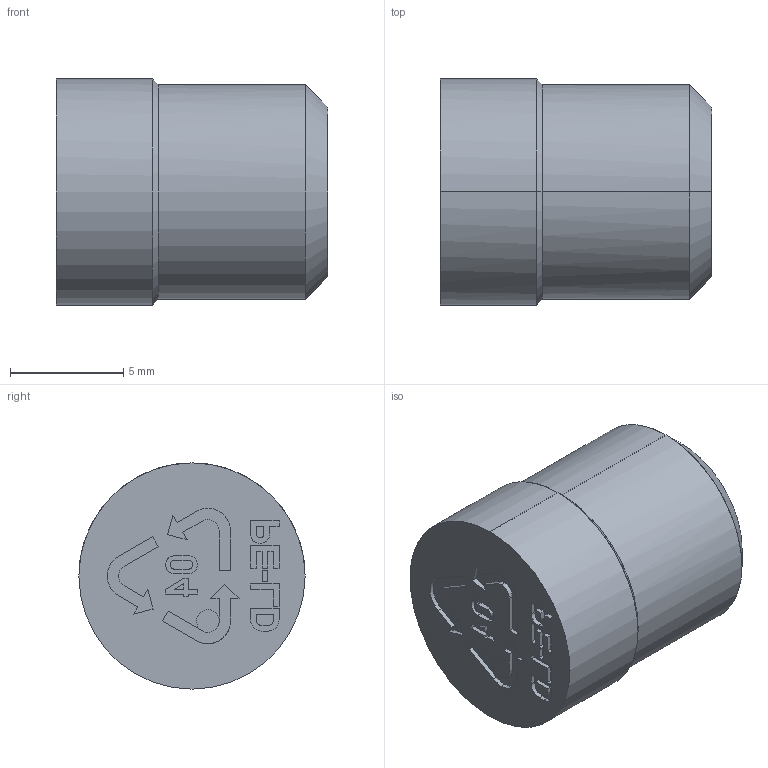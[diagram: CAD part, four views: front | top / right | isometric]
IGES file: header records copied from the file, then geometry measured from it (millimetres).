
Start section: START RECORD GO HERE.
Global section: file name: MSO410.igs; native system: DASSAULT SYSTEMES CATIA V5 R20 - www.3ds.com; preprocessor: CATIA Version 5 Release 20 ; author: Utente; organization: NB04-ASUS; date: 20210326.144008; units: millimetre
Bounding box: 12 x 10 x 10 mm (x, y, z)
Surface area: 579.2 mm2 (no closed solid volume)
Topology: 0 solids, 0 shells, 135 faces, 726 edges, 722 vertices
Faces by surface type: plane 99, revolution 36
